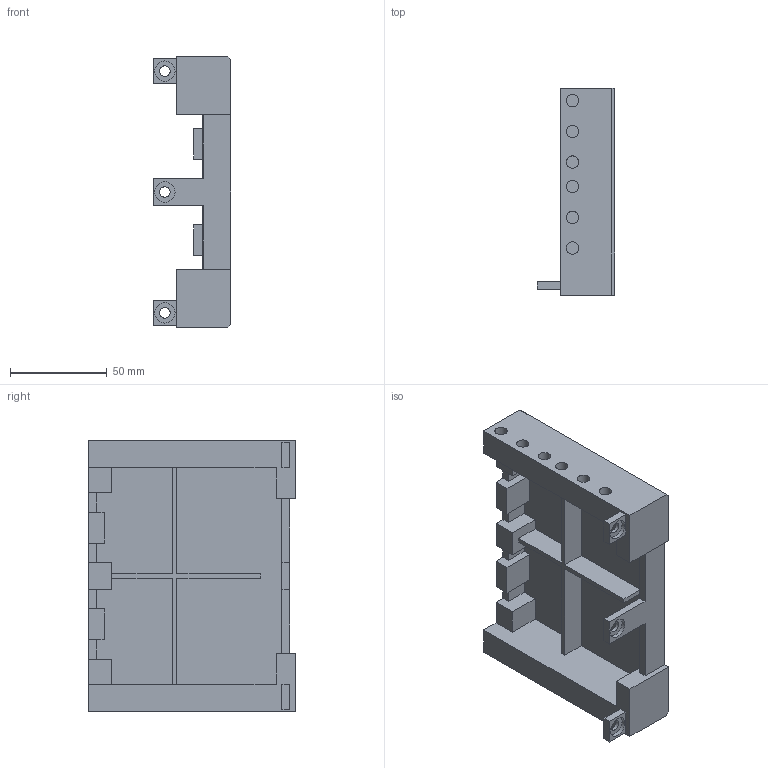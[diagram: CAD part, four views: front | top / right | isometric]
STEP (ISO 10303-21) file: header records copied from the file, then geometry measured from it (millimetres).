
FILE_DESCRIPTION(('Open CASCADE Model'),'2;1');
FILE_NAME('Open CASCADE Shape Model','2026-10-28T13:12:27',('Author'),( 'Open CASCADE'),'Open CASCADE STEP processor 7.9','Open CASCADE 7.9' ,'Unknown');
FILE_SCHEMA(('AUTOMOTIVE_DESIGN { 1 0 10303 214 1 1 1 1 }'));
Length unit declared in the file: millimetre
Products named in the file (1): Open CASCADE STEP translator 7.9 1
Bounding box: 40 x 106.9 x 140 mm (x, y, z)
Volume: 139333.2 mm3; surface area: 59726.9 mm2
Topology: 1 solids, 1 shells, 121 faces, 291 edges, 194 vertices
Faces by surface type: plane 100, cylinder 21
Full cylindrical faces by diameter (mm): 5.5 x3, 6.4 x15, 10.5 x3
Entity records: 7167 total; most frequent: CARTESIAN_POINT 1503, DIRECTION 950, LINE 601, VECTOR 601, ORIENTED_EDGE 582, PCURVE 582, DEFINITIONAL_REPRESENTATION 582, EDGE_CURVE 291
